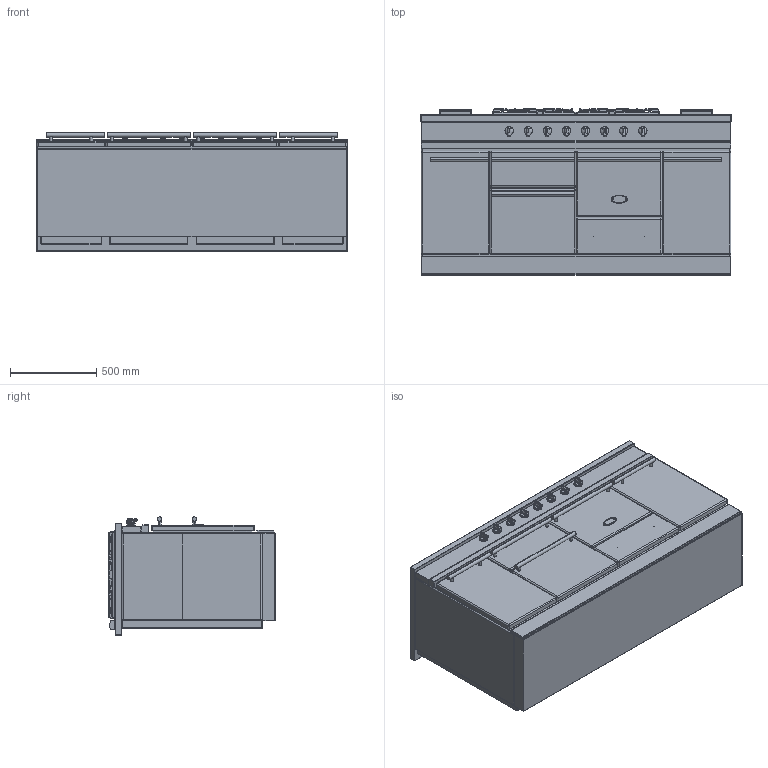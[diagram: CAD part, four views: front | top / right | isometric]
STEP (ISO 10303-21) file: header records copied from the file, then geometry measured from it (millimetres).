
FILE_DESCRIPTION((''),'2;1');
FILE_NAME('LMG1853_ASM','2022-04-13T11:19:18',('stagiaire'),(''),'CREO PARAMETRIC BY PTC INC, 2021424','CREO PARAMETRIC BY PTC INC, 2021424','');
FILE_SCHEMA(('AP203_CONFIGURATION_CONTROLLED_3D_DESIGN_OF_MECHANICAL_PARTS_AND_ASSEMBLIES_MIM_LF { 1 0 10303 403 2 1 2 }'));
Products named in the file (21): BASE_EXPORT_CHAGNY_1800_MODERN; 65049009; 65650001; 65064012; 19150009; 88064012_ASM; BASE_EXPORT_CHAGNY_1800_MODERN_ASM; TABLE_1805_CLASSIQUE; 3KW; 5KW; 1_5KW; 4KW; 6537025; 65149005; 90000488_ASM; 6537023; 90000565_ASM; CHEMINEE_2020_LG182_EXPORT_STEP; CHEMINEE_2020_LG371_EXPORT_STEP; TABLE_1805_CLASSIQUE_ASM; LMG1853_ASM
Assembly tree (39 placements, depth 4):
  LMG1853_ASM
    BASE_EXPORT_CHAGNY_1800_MODERN_ASM
      BASE_EXPORT_CHAGNY_1800_MODERN
      65049009
      65650001
      88064012_ASM  x8
        65064012
        19150009
    TABLE_1805_CLASSIQUE_ASM
      TABLE_1805_CLASSIQUE
      3KW  x2
      5KW
      1_5KW
      4KW
      90000488_ASM  x2
        6537025
        65149005
      90000565_ASM  x2
        6537023
        65149005
      CHEMINEE_2020_LG182_EXPORT_STEP  x2
      CHEMINEE_2020_LG371_EXPORT_STEP  x2
Bounding box: 1805 x 965 x 687.75 mm (x, y, z)
Volume: 657673769.5 mm3; surface area: 15791928.1 mm2
Topology: 53 solids, 53 shells, 6563 faces, 18063 edges, 11553 vertices
Faces by surface type: cylinder 2235, plane 2025, bspline 1376, sphere 362, cone 327, torus 196, extrusion 42
Entity records: 145686 total; most frequent: CARTESIAN_POINT 49105, ORIENTED_EDGE 15756, DIRECTION 14712, EDGE_CURVE 7878, AXIS2_PLACEMENT_3D 5011, VERTEX_POINT 4777, VECTOR 4632, LINE 4610
